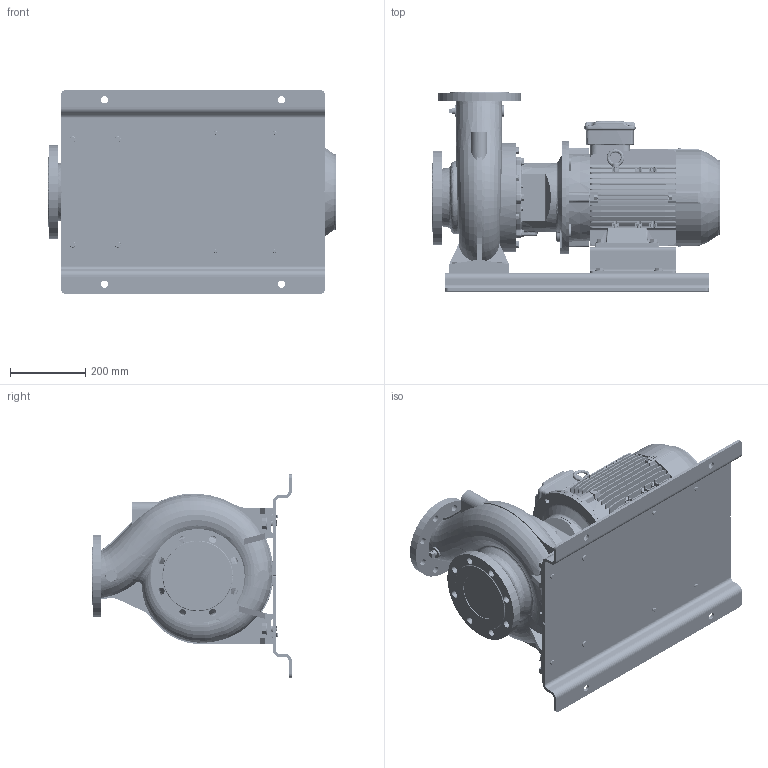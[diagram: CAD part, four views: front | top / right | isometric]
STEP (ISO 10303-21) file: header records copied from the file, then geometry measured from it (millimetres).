
FILE_DESCRIPTION (( 'STEP AP214' ), '1' );
FILE_NAME ('GSD4 100-200_5.5_(132S)_W21_BP.STEP', '2026-05-08T06:29:01', ( '' ), ( '' ), 'SwSTEP 2.0', 'SolidWorks 2024', '' );
FILE_SCHEMA (( 'AUTOMOTIVE_DESIGN' ));
Length unit declared in the file: millimetre
Products named in the file (13): 100-200-132S_ﾃﾞﾌｫﾙﾄ; Parametric bolt_SFT-A249B; Parametric bolt_SFT-A351B; Parametric Flat Washer_M10; Parametric Flat Washer_M16; Parametric bolt and washer_SFT-A253B; 132S ALIE3_W21T_B35; N6S6 GSDA-663 F1-1832933-00; Parametric bolt_SFT-A253B; Parametric bolt and washer_SFT-A249B; Parametric bolt and washer_SFT-A351B; 140_178 x 68 BP - 271472191; GSD4 100-200_5.5_(132S)_W21_BP
Assembly tree (22 placements, depth 3):
  GSD4 100-200_5.5_(132S)_W21_BP
    100-200-132S_ﾃﾞﾌｫﾙﾄ
    N6S6 GSDA-663 F1-1832933-00
    140_178 x 68 BP - 271472191
    Parametric bolt and washer_SFT-A351B  x4
      Parametric bolt_SFT-A351B
      Parametric Flat Washer_M16
    Parametric bolt and washer_SFT-A249B  x4
      Parametric bolt_SFT-A249B
      Parametric Flat Washer_M10
    Parametric bolt and washer_SFT-A253B  x4
      Parametric bolt_SFT-A253B
      Parametric Flat Washer_M10
    132S ALIE3_W21T_B35
Bounding box: 764.8 x 530 x 540 mm (x, y, z)
Volume: 43908755.8 mm3; surface area: 3227301.7 mm2
Topology: 32 solids, 32 shells, 4948 faces, 12804 edges, 8262 vertices
Faces by surface type: plane 2921, cylinder 1171, bspline 306, torus 269, cone 249, sphere 32
Entity records: 187632 total; most frequent: CARTESIAN_POINT 80360, ORIENTED_EDGE 23050, DIRECTION 20814, EDGE_CURVE 11525, LINE 7680, VECTOR 7680, VERTEX_POINT 7443, AXIS2_PLACEMENT_3D 6567
